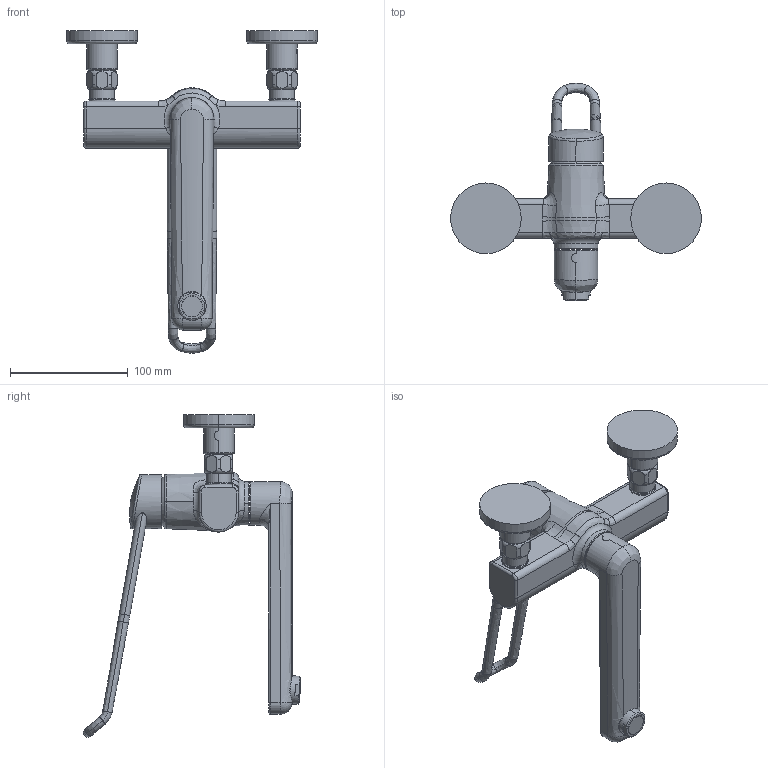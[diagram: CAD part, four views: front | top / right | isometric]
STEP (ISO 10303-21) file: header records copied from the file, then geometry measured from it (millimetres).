
FILE_DESCRIPTION((''),'2;1');
FILE_NAME('11522103','2020-08-04T16:35:34',('SN986'),(''),'CREO PARAMETRIC BY PTC INC, 2018500','CREO PARAMETRIC BY PTC INC, 2018500','');
FILE_SCHEMA(('CONFIG_CONTROL_DESIGN'));
Length unit declared in the file: millimetre
Products named in the file (1): 11522103
Bounding box: 213 x 184.72 x 273.86 mm (x, y, z)
Volume: 618924.8 mm3; surface area: 92121.6 mm2
Topology: 4 solids, 4 shells, 223 faces, 512 edges, 307 vertices
Faces by surface type: cylinder 62, torus 53, bspline 46, plane 46, cone 11, sphere 5
Entity records: 12202 total; most frequent: CARTESIAN_POINT 7413, ORIENTED_EDGE 1024, DIRECTION 953, EDGE_CURVE 512, AXIS2_PLACEMENT_3D 420, VERTEX_POINT 307, CIRCLE 243, EDGE_LOOP 235
